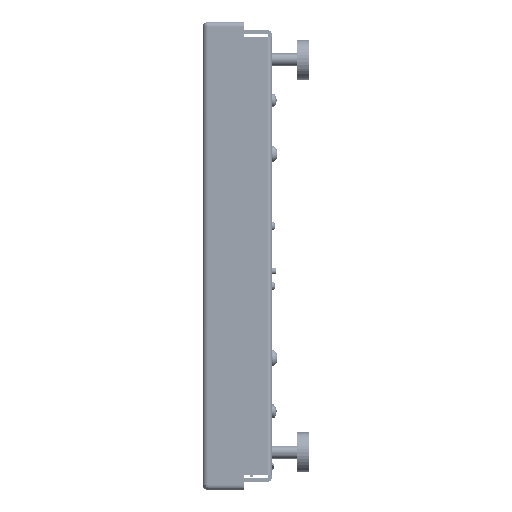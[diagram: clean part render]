
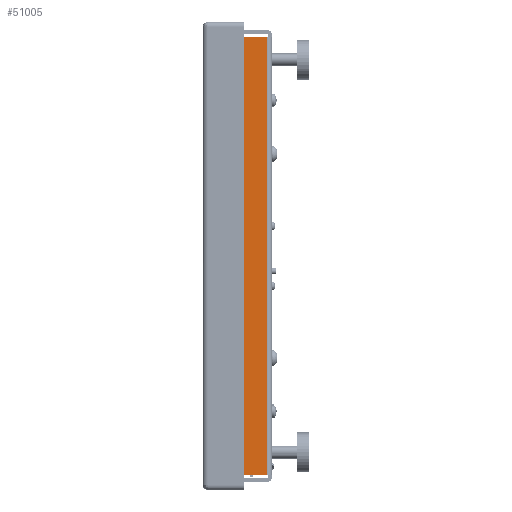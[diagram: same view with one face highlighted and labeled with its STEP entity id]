
A CAD part, left-side view. The second image highlights one B-rep face of the part: STEP entity #51005.
In plain terms, the highlighted planar face has unit normal (-1, 0, 0).
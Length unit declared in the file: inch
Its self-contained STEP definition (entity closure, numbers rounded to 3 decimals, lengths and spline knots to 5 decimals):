
#12983 = LINE ( 'NONE', #114988, #217540 ) ;
#17708 = VERTEX_POINT ( 'NONE', #208649 ) ;
#26568 = LINE ( 'NONE', #300837, #326570 ) ;
#29786 = ORIENTED_EDGE ( 'NONE', *, *, #102643, .T. ) ;
#40225 = VECTOR ( 'NONE', #390321, 39.37008 ) ;
#51005 = ADVANCED_FACE ( 'NONE', ( #239996 ), #247103, .F. ) ;
#58704 = CARTESIAN_POINT ( 'NONE',  ( -5.67549, 0.945, -5.48455 ) ) ;
#59302 = LINE ( 'NONE', #331707, #40225 ) ;
#59761 = DIRECTION ( 'NONE',  ( 0., -1., 0. ) ) ;
#60817 = VERTEX_POINT ( 'NONE', #58704 ) ;
#94025 = DIRECTION ( 'NONE',  ( 0., 1., 0. ) ) ;
#99553 = VECTOR ( 'NONE', #168355, 39.37008 ) ;
#100640 = ORIENTED_EDGE ( 'NONE', *, *, #383790, .F. ) ;
#102643 = EDGE_CURVE ( 'NONE', #60817, #197262, #26568, .T. ) ;
#114181 = LINE ( 'NONE', #317372, #99553 ) ;
#114988 = CARTESIAN_POINT ( 'NONE',  ( -5.67549, 0.032, -5.48455 ) ) ;
#119433 = AXIS2_PLACEMENT_3D ( 'NONE', #338909, #156554, #94025 ) ;
#142438 = ORIENTED_EDGE ( 'NONE', *, *, #199570, .T. ) ;
#156554 = DIRECTION ( 'NONE',  ( 1., 0., 0. ) ) ;
#164497 = CARTESIAN_POINT ( 'NONE',  ( -5.67549, 0.032, -5.48455 ) ) ;
#168355 = DIRECTION ( 'NONE',  ( 0., 1., 0. ) ) ;
#193824 = CARTESIAN_POINT ( 'NONE',  ( -5.67549, 0.945, 5.48455 ) ) ;
#197262 = VERTEX_POINT ( 'NONE', #164497 ) ;
#199570 = EDGE_CURVE ( 'NONE', #17708, #276377, #114181, .T. ) ;
#208649 = CARTESIAN_POINT ( 'NONE',  ( -5.67549, 0.032, 5.48455 ) ) ;
#217540 = VECTOR ( 'NONE', #358301, 39.37008 ) ;
#226913 = EDGE_CURVE ( 'NONE', #276377, #60817, #59302, .T. ) ;
#239996 = FACE_OUTER_BOUND ( 'NONE', #362422, .T. ) ;
#247103 = PLANE ( 'NONE',  #119433 ) ;
#276377 = VERTEX_POINT ( 'NONE', #193824 ) ;
#295652 = ORIENTED_EDGE ( 'NONE', *, *, #226913, .T. ) ;
#300837 = CARTESIAN_POINT ( 'NONE',  ( -5.67549, 0., -5.48455 ) ) ;
#317372 = CARTESIAN_POINT ( 'NONE',  ( -5.67549, 0., 5.48455 ) ) ;
#326570 = VECTOR ( 'NONE', #59761, 39.37008 ) ;
#331707 = CARTESIAN_POINT ( 'NONE',  ( -5.67549, 0.945, 0. ) ) ;
#338909 = CARTESIAN_POINT ( 'NONE',  ( -5.67549, 0., 0. ) ) ;
#358301 = DIRECTION ( 'NONE',  ( 0., 0., -1. ) ) ;
#362422 = EDGE_LOOP ( 'NONE', ( #100640, #142438, #295652, #29786 ) ) ;
#383790 = EDGE_CURVE ( 'NONE', #17708, #197262, #12983, .T. ) ;
#390321 = DIRECTION ( 'NONE',  ( 0., 0., -1. ) ) ;
